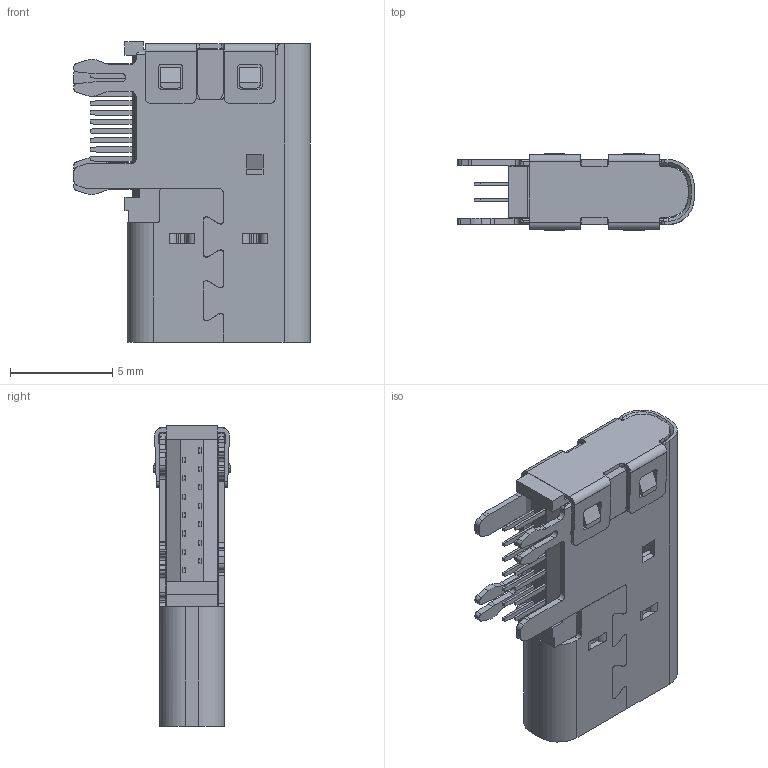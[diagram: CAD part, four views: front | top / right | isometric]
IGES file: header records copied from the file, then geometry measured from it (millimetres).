
Start section:  PTC IGES file: 0000.igs
Global section: file name: 0000.igs; native system: Creo Parametric by PTC Inc.; preprocessor: 2016510; author: Administrator; organization: Unknown; date: 20180514.172034; units: millimetre
Bounding box: 11.54 x 3.76 x 14.65 mm (x, y, z)
Surface area: 1208.2 mm2 (no closed solid volume)
Topology: 0 solids, 0 shells, 1133 faces, 6130 edges, 6130 vertices
Faces by surface type: bspline 950, revolution 183
